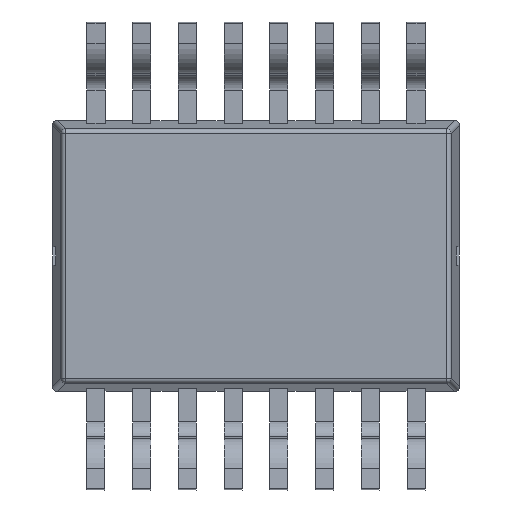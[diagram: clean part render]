
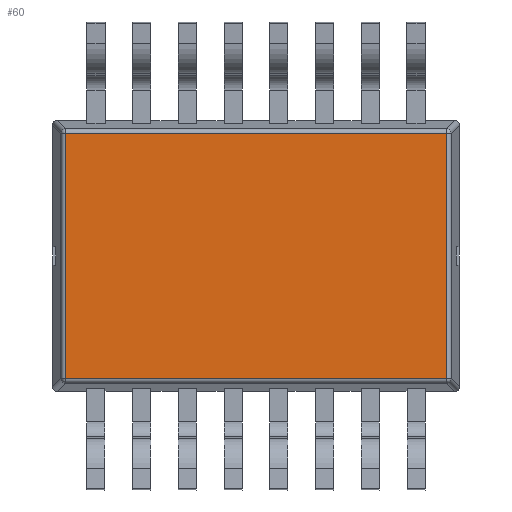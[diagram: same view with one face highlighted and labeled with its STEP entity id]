
A CAD part, front view. The second image highlights one B-rep face of the part: STEP entity #60.
In plain terms, the highlighted planar face has unit normal (0, -1, 0).
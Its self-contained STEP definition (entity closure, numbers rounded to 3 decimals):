
#60=ADVANCED_FACE('',(#342),#343,.T.);
#342=FACE_OUTER_BOUND('',#893,.T.);
#343=PLANE('',#894);
#893=EDGE_LOOP('',(#1529,#1530,#1531,#1532));
#894=AXIS2_PLACEMENT_3D('',#1533,#1534,#1535);
#1529=ORIENTED_EDGE('',*,*,#3859,.T.);
#1530=ORIENTED_EDGE('',*,*,#3858,.T.);
#1531=ORIENTED_EDGE('',*,*,#3860,.T.);
#1532=ORIENTED_EDGE('',*,*,#3861,.T.);
#1533=CARTESIAN_POINT('',(145.995,-1.05,-51.604));
#1534=DIRECTION('',(0.,-1.0,0.));
#1535=DIRECTION('',(-1.0,0.,0.));
#3858=EDGE_CURVE('',#4652,#4656,#4658,.T.);
#3859=EDGE_CURVE('',#4649,#4652,#4659,.T.);
#3860=EDGE_CURVE('',#4656,#4660,#4661,.T.);
#3861=EDGE_CURVE('',#4660,#4649,#4662,.T.);
#4649=VERTEX_POINT('',#6001);
#4652=VERTEX_POINT('',#6004);
#4656=VERTEX_POINT('',#6009);
#4658=LINE('',#6011,#6012);
#4659=LINE('',#6013,#6014);
#4660=VERTEX_POINT('',#6015);
#4661=LINE('',#6016,#6017);
#4662=LINE('',#6018,#6019);
#6001=CARTESIAN_POINT('',(151.286,-1.05,-55.01));
#6004=CARTESIAN_POINT('',(151.286,-1.05,-48.198));
#6009=CARTESIAN_POINT('',(140.704,-1.05,-48.198));
#6011=CARTESIAN_POINT('',(140.595,-1.05,-48.198));
#6012=VECTOR('',#7876,1.0);
#6013=CARTESIAN_POINT('',(151.286,-1.05,-48.09));
#6014=VECTOR('',#7877,1.0);
#6015=CARTESIAN_POINT('',(140.704,-1.05,-55.01));
#6016=CARTESIAN_POINT('',(140.704,-1.05,-55.119));
#6017=VECTOR('',#7878,1.0);
#6018=CARTESIAN_POINT('',(151.394,-1.05,-55.01));
#6019=VECTOR('',#7879,1.0);
#7876=DIRECTION('',(-1000.0,0.,0.));
#7877=DIRECTION('',(0.,0.,1000.0));
#7878=DIRECTION('',(0.,0.,-1000.0));
#7879=DIRECTION('',(1000.0,0.,0.));
